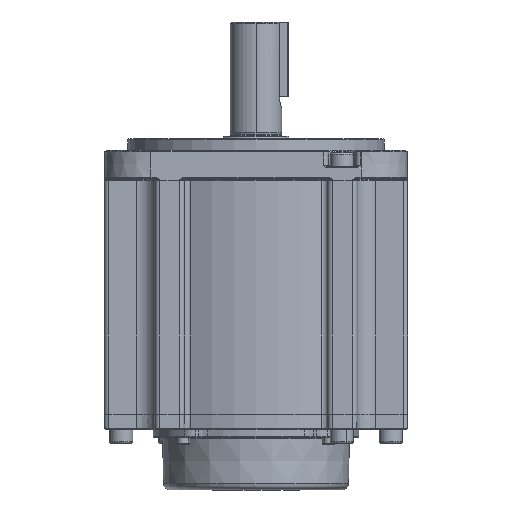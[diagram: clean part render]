
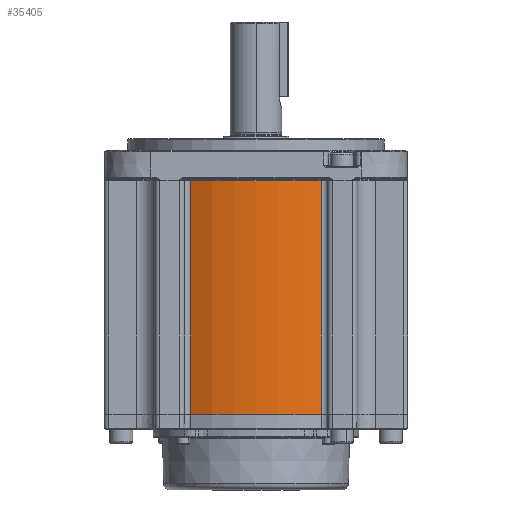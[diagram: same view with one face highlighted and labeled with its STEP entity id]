
A CAD part, front view. The second image highlights one B-rep face of the part: STEP entity #35405.
In plain terms, the highlighted cylindrical face has radius 64.5 mm (diameter 129 mm), a partial arc.
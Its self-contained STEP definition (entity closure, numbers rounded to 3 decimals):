
#3742 = VERTEX_POINT ( 'NONE', #48191 ) ;
#4012 = LINE ( 'NONE', #36378, #24438 ) ;
#5034 = EDGE_LOOP ( 'NONE', ( #49007, #5779, #16090, #31073 ) ) ;
#5708 = VERTEX_POINT ( 'NONE', #32995 ) ;
#5779 = ORIENTED_EDGE ( 'NONE', *, *, #12908, .T. ) ;
#6421 = DIRECTION ( 'NONE',  ( 0., 0., 1. ) ) ;
#8193 = DIRECTION ( 'NONE',  ( 0., 0., 1. ) ) ;
#8211 = VECTOR ( 'NONE', #6421, 1000. ) ;
#9109 = FACE_OUTER_BOUND ( 'NONE', #5034, .T. ) ;
#10143 = CARTESIAN_POINT ( 'NONE',  ( 27.9, -58.154, -51. ) ) ;
#10927 = VERTEX_POINT ( 'NONE', #43362 ) ;
#12908 = EDGE_CURVE ( 'NONE', #3742, #5708, #46618, .T. ) ;
#13182 = CARTESIAN_POINT ( 'NONE',  ( 0., 0., -50. ) ) ;
#16090 = ORIENTED_EDGE ( 'NONE', *, *, #42185, .F. ) ;
#16889 = CYLINDRICAL_SURFACE ( 'NONE', #32666, 64.5 ) ;
#17050 = DIRECTION ( 'NONE',  ( 0., 1., 0. ) ) ;
#18703 = VERTEX_POINT ( 'NONE', #28836 ) ;
#20698 = AXIS2_PLACEMENT_3D ( 'NONE', #31196, #8193, #35083 ) ;
#22266 = AXIS2_PLACEMENT_3D ( 'NONE', #13182, #40071, #17050 ) ;
#24438 = VECTOR ( 'NONE', #40234, 1000. ) ;
#27361 = CIRCLE ( 'NONE', #20698, 64.5 ) ;
#28836 = CARTESIAN_POINT ( 'NONE',  ( -27.9, -58.154, 50. ) ) ;
#31073 = ORIENTED_EDGE ( 'NONE', *, *, #39611, .T. ) ;
#31196 = CARTESIAN_POINT ( 'NONE',  ( 0., 0., 50. ) ) ;
#31971 = DIRECTION ( 'NONE',  ( 1., 0., 0. ) ) ;
#32126 = DIRECTION ( 'NONE',  ( 0., 0., 1. ) ) ;
#32666 = AXIS2_PLACEMENT_3D ( 'NONE', #39710, #32126, #31971 ) ;
#32995 = CARTESIAN_POINT ( 'NONE',  ( 27.9, -58.154, 50. ) ) ;
#35083 = DIRECTION ( 'NONE',  ( 0., -1., 0. ) ) ;
#35342 = CIRCLE ( 'NONE', #22266, 64.5 ) ;
#35405 = ADVANCED_FACE ( 'NONE', ( #9109 ), #16889, .T. ) ;
#36378 = CARTESIAN_POINT ( 'NONE',  ( -27.9, -58.154, -51. ) ) ;
#39611 = EDGE_CURVE ( 'NONE', #18703, #10927, #4012, .T. ) ;
#39710 = CARTESIAN_POINT ( 'NONE',  ( 0., 0., -51. ) ) ;
#40071 = DIRECTION ( 'NONE',  ( 0., 0., -1. ) ) ;
#40234 = DIRECTION ( 'NONE',  ( 0., 0., -1. ) ) ;
#42185 = EDGE_CURVE ( 'NONE', #18703, #5708, #27361, .T. ) ;
#43362 = CARTESIAN_POINT ( 'NONE',  ( -27.9, -58.154, -50. ) ) ;
#46618 = LINE ( 'NONE', #10143, #8211 ) ;
#48191 = CARTESIAN_POINT ( 'NONE',  ( 27.9, -58.154, -50. ) ) ;
#49007 = ORIENTED_EDGE ( 'NONE', *, *, #49860, .F. ) ;
#49860 = EDGE_CURVE ( 'NONE', #3742, #10927, #35342, .T. ) ;
